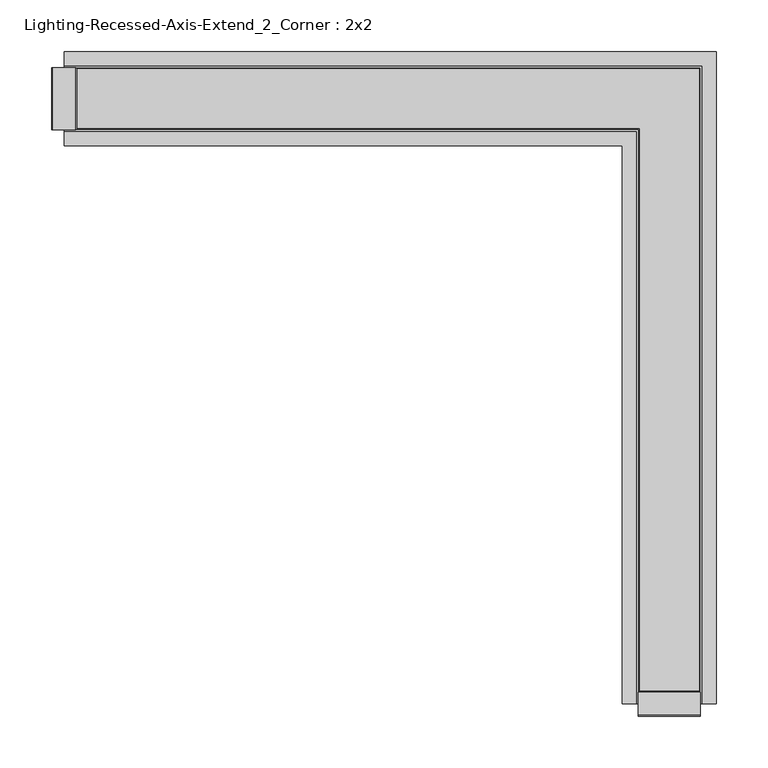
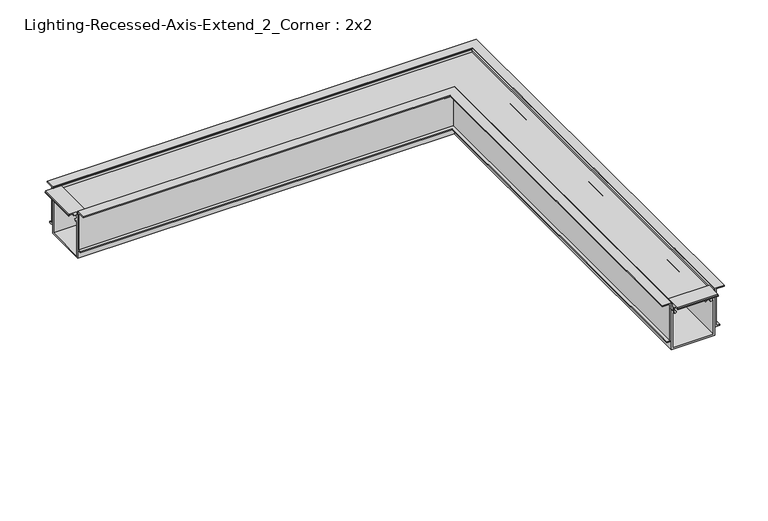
"""IFC4 building model written with IfcOpenShell, lengths in millimetres: light fixture geometry, Lighting-Recessed-Axis-Extend_2_Corner : 2x2."""

from ifc_helpers import new_model, si_unit, frame, origin, place, context, project, spatial, polyline, circle_curve, ellipse_curve, outline, extrude, faceted_brep, source, transform, mapped, element, save
from ifc_brep_helpers import plane_surface, cylinder_surface, revolved_surface, advanced_brep


def lighting_recessed_axis_extend_2_corner_2x2_75cb55ce(model_context):
    return source(origin(), model_context, "Body", "SolidModel", [
        extrude(outline(polyline([(-598.8558, -1.1017139), (-597.9312563, 0.0), (-575.5741437, 0.0), (-574.6496, -1.1017139), (-574.6496, -2.57175), (-575.44335, -2.57175), (-575.44335, -1.778), (-581.914, -1.778), (-581.914, -4.5842019), (-591.5914, -4.5842019), (-591.5914, -1.778), (-598.06205, -1.778), (-598.06205, -2.57175), (-598.8558, -2.57175), (-598.8558, -1.1017139)])), frame((242.824, 0.0, 0.0), z_axis=(1.0, 0.0, 0.0), x_axis=(0.0, 1.0, 0.0)), (0.0, 0.0, 1.0), 59.944),
        extrude(outline(polyline([(-1.1017139, -301.8536), (0.0, -302.7781437), (0.0, -325.1352563), (-1.1017139, -326.0598), (-2.57175, -326.0598), (-2.57175, -325.26605), (-1.778, -325.26605), (-1.778, -318.7954), (-4.5842019, -318.7954), (-4.5842019, -309.118), (-1.778, -309.118), (-1.778, -302.64735), (-2.57175, -302.64735), (-2.57175, -301.8536), (-1.1017139, -301.8536)])), frame((0.0, -29.972, 0.0), z_axis=(0.0, 1.0, 0.0), x_axis=(0.0, 0.0, 1.0)), (0.0, 0.0, 1.0), 59.944),
        advanced_brep(
        [(-304.8, -24.1727262, -4.8895009), (-304.8, -24.5114181, -11.3521263), (-304.8, -25.3818814, -17.9580097), (-304.8, -24.5665956, -19.4557425), (-304.8, -23.2119066, -20.6551445), (-304.8, -24.192808, -21.9831631), (-304.8, -25.7659952, -20.5903092), (-304.8, -27.1108807, -16.75974), (-304.8, -25.4753941, -12.7205342), (-304.8, -26.1394859, -10.8713211), (-304.8, -25.825992, -4.8895009), (-304.8, -28.829, -4.8895009), (-304.8, -28.829, -2.9845), (-304.8, 28.829, -2.9845), (-304.8, 28.829, -4.8895009), (-304.8, 25.825992, -4.8895009), (-304.8, 26.1394859, -10.8713211), (-304.8, 25.4753941, -12.7205342), (-304.8, 27.1108807, -16.75974), (-304.8, 25.7659952, -20.5903092), (-304.8, 24.192808, -21.9831631), (-304.8, 23.2119066, -20.6551445), (-304.8, 24.5665956, -19.4557425), (-304.8, 25.3818814, -17.9580097), (-304.8, 24.5114181, -11.3521263), (-304.8, 24.1727262, -4.8895009), (248.6232738, -577.596, -4.8895009), (296.9687262, -577.596, -4.8895009), (297.3074181, -577.596, -11.3521263), (298.1778814, -577.596, -17.9580097), (297.3625956, -577.596, -19.4557425), (296.0079066, -577.596, -20.6551445), (296.988808, -577.596, -21.9831631), (298.5619952, -577.596, -20.5903092), (299.9068807, -577.596, -16.75974), (298.2713941, -577.596, -12.7205342), (298.9354859, -577.596, -10.8713211), (298.621992, -577.596, -4.8895009), (301.625, -577.596, -4.8895009), (301.625, -577.596, -2.9845), (243.967, -577.596, -2.9845), (243.967, -577.596, -4.8895009), (246.970008, -577.596, -4.8895009), (246.6565141, -577.596, -10.8713211), (247.3206059, -577.596, -12.7205342), (245.6851193, -577.596, -16.75974), (247.0300048, -577.596, -20.5903092), (248.603192, -577.596, -21.9831631), (249.5840934, -577.596, -20.6551445), (248.2294044, -577.596, -19.4557425), (247.4141186, -577.596, -17.9580097), (248.2845819, -577.596, -11.3521263), (248.6232738, -24.1727262, -4.8895009), (248.2845819, -24.5114181, -11.3521263), (247.4141186, -25.3818814, -17.9580097), (248.2294044, -24.5665956, -19.4557425), (249.5840934, -23.2119066, -20.6551445), (248.603192, -24.192808, -21.9831631), (247.0300048, -25.7659952, -20.5903092), (245.6851193, -27.1108807, -16.75974), (247.3206059, -25.4753941, -12.7205342), (246.6565141, -26.1394859, -10.8713211), (246.970008, -25.825992, -4.8895009), (243.967, -28.829, -4.8895009), (243.967, -28.829, -2.9845), (301.625, 28.829, -2.9845), (301.625, 28.829, -4.8895009), (298.621992, 25.825992, -4.8895009), (298.9354859, 26.1394859, -10.8713211), (298.2713941, 25.4753941, -12.7205342), (299.9068807, 27.1108807, -16.75974), (298.5619952, 25.7659952, -20.5903092), (296.988808, 24.192808, -21.9831631), (296.0079066, 23.2119066, -20.6551445), (297.3625956, 24.5665956, -19.4557425), (298.1778814, 25.3818814, -17.9580097), (297.3074181, 24.5114181, -11.3521263), (296.9687262, 24.1727262, -4.8895009)],
        [
            (0, 1),
            (1, 2, circle_curve(frame((-304.8, -27.2542, -14.351), z_axis=(-1.0, 0.0, 0.0), x_axis=(0.0, 0.6748971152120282, 0.7379118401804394)), 4.064)),
            (2, 3, circle_curve(frame((-304.8, -22.149344, -17.1691543), z_axis=(1.0, 0.0, 0.0), x_axis=(0.0, -0.971490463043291, -0.23707863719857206)), 3.3274001)),
            (3, 4, circle_curve(frame((-304.8, -17.1303177, -12.4214292), z_axis=(1.0, 0.0, 0.0), x_axis=(0.0, -0.7264901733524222, -0.6871768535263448)), 10.2362001)),
            (4, 5, circle_curve(frame((-304.8, -23.7023573, -21.3191538), z_axis=(-1.0, 0.0, 0.0), x_axis=(0.0, 0.5941256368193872, 0.8043722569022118)), 0.8255)),
            (5, 6, circle_curve(frame((-304.8, -17.1303169, -12.4214283), z_axis=(-1.0, 0.0, 0.0), x_axis=(0.0, -0.5941256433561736, -0.8043722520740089)), 11.8872013)),
            (6, 7, circle_curve(frame((-304.8, -22.149344, -17.1691543), z_axis=(-1.0, 0.0, 0.0), x_axis=(0.0, -0.726468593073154, -0.6871996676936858)), 4.9784001)),
            (7, 8, circle_curve(frame((-304.8, -27.2542, -14.351), z_axis=(1.0, 0.0, 0.0), x_axis=(0.0, 0.05939464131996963, -0.9982345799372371)), 2.413)),
            (8, 9, circle_curve(frame((-304.8, -23.6029669, -11.0042544), z_axis=(-1.0, 0.0, 0.0), x_axis=(0.0, -0.7371760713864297, -0.675700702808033)), 2.54)),
            (9, 10),
            (10, 11),
            (11, 12),
            (12, 13),
            (13, 14),
            (14, 15),
            (15, 16),
            (16, 17, circle_curve(frame((-304.8, 23.6029669, -11.0042544), z_axis=(-1.0, 0.0, 0.0), x_axis=(0.0, 0.9986295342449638, 0.05233596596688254)), 2.54)),
            (17, 18, circle_curve(frame((-304.8, 27.2542, -14.351), z_axis=(1.0, 0.0, 0.0), x_axis=(0.0, -0.7371760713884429, 0.6757007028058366)), 2.413)),
            (18, 19, circle_curve(frame((-304.8, 22.149344, -17.1691543), z_axis=(-1.0, 0.0, 0.0), x_axis=(0.0, 0.996612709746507, 0.08223811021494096)), 4.9784001)),
            (19, 20, circle_curve(frame((-304.8, 17.1303169, -12.4214283), z_axis=(-1.0, 0.0, 0.0), x_axis=(0.0, 0.72646858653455, -0.6871996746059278)), 11.8872013)),
            (20, 21, circle_curve(frame((-304.8, 23.7023573, -21.3191538), z_axis=(-1.0, 0.0, 0.0), x_axis=(0.0, 0.594125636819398, -0.8043722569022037)), 0.8255)),
            (21, 22, circle_curve(frame((-304.8, 17.1303177, -12.4214292), z_axis=(1.0, 0.0, 0.0), x_axis=(0.0, 0.5941256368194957, -0.8043722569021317)), 10.2362001)),
            (22, 23, circle_curve(frame((-304.8, 22.149344, -17.1691543), z_axis=(1.0, 0.0, 0.0), x_axis=(0.0, 0.7265349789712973, -0.6871294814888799)), 3.3274001)),
            (23, 24, circle_curve(frame((-304.8, 27.2542, -14.351), z_axis=(-1.0, 0.0, 0.0), x_axis=(0.0, -0.46070831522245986, -0.8875516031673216)), 4.064)),
            (24, 25),
            (25, 0),
            (26, 27),
            (27, 28),
            (28, 29, circle_curve(frame((300.0502, -577.596, -14.351), z_axis=(0.0, -1.0, 0.0), x_axis=(-0.46070831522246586, 0.0, -0.8875516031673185)), 4.064)),
            (29, 30, circle_curve(frame((294.945344, -577.596, -17.1691543), z_axis=(0.0, 1.0, 0.0), x_axis=(0.7265349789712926, 0.0, -0.6871294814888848)), 3.3274001)),
            (30, 31, circle_curve(frame((289.9263177, -577.596, -12.4214292), z_axis=(0.0, 1.0, 0.0), x_axis=(0.5941256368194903, 0.0, -0.8043722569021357)), 10.2362001)),
            (31, 32, circle_curve(frame((296.4983573, -577.596, -21.3191538), z_axis=(0.0, -1.0, 0.0), x_axis=(0.5941256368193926, 0.0, -0.8043722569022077)), 0.8255)),
            (32, 33, circle_curve(frame((289.9263169, -577.596, -12.4214283), z_axis=(0.0, -1.0, 0.0), x_axis=(0.7264685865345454, 0.0, -0.6871996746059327)), 11.8872013)),
            (33, 34, circle_curve(frame((294.945344, -577.596, -17.1691543), z_axis=(0.0, -1.0, 0.0), x_axis=(0.9966127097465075, 0.0, 0.0822381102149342)), 4.9784001)),
            (34, 35, circle_curve(frame((300.0502, -577.596, -14.351), z_axis=(0.0, 1.0, 0.0), x_axis=(-0.7371760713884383, 0.0, 0.6757007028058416)), 2.413)),
            (35, 36, circle_curve(frame((296.3989669, -577.596, -11.0042544), z_axis=(0.0, -1.0, 0.0), x_axis=(0.9986295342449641, 0.0, 0.052335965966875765)), 2.54)),
            (36, 37),
            (37, 38),
            (38, 39),
            (39, 40),
            (40, 41),
            (41, 42),
            (42, 43),
            (43, 44, circle_curve(frame((249.1930331, -577.596, -11.0042544), z_axis=(0.0, -1.0, 0.0), x_axis=(-0.7371760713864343, 0.0, -0.675700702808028)), 2.54)),
            (44, 45, circle_curve(frame((245.5418, -577.596, -14.351), z_axis=(0.0, 1.0, 0.0), x_axis=(0.05939464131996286, 0.0, -0.9982345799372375)), 2.413)),
            (45, 46, circle_curve(frame((250.646656, -577.596, -17.1691543), z_axis=(0.0, -1.0, 0.0), x_axis=(-0.7264685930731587, 0.0, -0.6871996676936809)), 4.9784001)),
            (46, 47, circle_curve(frame((255.6656831, -577.596, -12.4214283), z_axis=(0.0, -1.0, 0.0), x_axis=(-0.594125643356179, 0.0, -0.8043722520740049)), 11.8872013)),
            (47, 48, circle_curve(frame((249.0936427, -577.596, -21.3191538), z_axis=(0.0, -1.0, 0.0), x_axis=(0.5941256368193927, 0.0, 0.8043722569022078)), 0.8255)),
            (48, 49, circle_curve(frame((255.6656823, -577.596, -12.4214292), z_axis=(0.0, 1.0, 0.0), x_axis=(-0.7264901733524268, 0.0, -0.68717685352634)), 10.2362001)),
            (49, 50, circle_curve(frame((250.646656, -577.596, -17.1691543), z_axis=(0.0, 1.0, 0.0), x_axis=(-0.9714904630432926, 0.0, -0.23707863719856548)), 3.3274001)),
            (50, 51, circle_curve(frame((245.5418, -577.596, -14.351), z_axis=(0.0, -1.0, 0.0), x_axis=(0.6748971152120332, 0.0, 0.7379118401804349)), 4.064)),
            (51, 26),
            (0, 52),
            (52, 53),
            (53, 1),
            (53, 54, ellipse_curve(frame((245.5418, -27.2542, -14.351), z_axis=(-0.7071067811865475, 0.7071067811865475, 0.0), x_axis=(-0.7071067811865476, -0.7071067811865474, 0.0)), 5.7473639, 4.064)),
            (54, 2),
            (54, 55, ellipse_curve(frame((250.646656, -22.149344, -17.1691543), z_axis=(0.7071067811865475, -0.7071067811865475, 0.0), x_axis=(0.7071067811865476, 0.7071067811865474, 0.0)), 4.7056543, 3.3274001)),
            (55, 3),
            (55, 56, ellipse_curve(frame((255.6656823, -17.1303177, -12.4214292), z_axis=(0.7071067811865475, -0.7071067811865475, 0.0), x_axis=(0.7071067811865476, 0.7071067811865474, 0.0)), 14.476173, 10.2362001)),
            (56, 4),
            (56, 57, ellipse_curve(frame((249.0936427, -23.7023573, -21.3191538), z_axis=(-0.7071067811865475, 0.7071067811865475, 0.0), x_axis=(-0.7071067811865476, -0.7071067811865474, 0.0)), 1.1674333, 0.8255)),
            (57, 5),
            (57, 58, ellipse_curve(frame((255.6656831, -17.1303169, -12.4214283), z_axis=(-0.7071067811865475, 0.7071067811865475, 0.0), x_axis=(-0.7071067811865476, -0.7071067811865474, 0.0)), 16.8110412, 11.8872013)),
            (58, 6),
            (58, 59, ellipse_curve(frame((250.646656, -22.149344, -17.1691543), z_axis=(-0.7071067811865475, 0.7071067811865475, 0.0), x_axis=(-0.7071067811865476, -0.7071067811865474, 0.0)), 7.0405209, 4.9784001)),
            (59, 7),
            (59, 60, ellipse_curve(frame((245.5418, -27.2542, -14.351), z_axis=(0.7071067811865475, -0.7071067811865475, 0.0), x_axis=(0.7071067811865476, 0.7071067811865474, 0.0)), 3.4124973, 2.413)),
            (60, 8),
            (60, 61, ellipse_curve(frame((249.1930331, -23.6029669, -11.0042544), z_axis=(-0.7071067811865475, 0.7071067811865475, 0.0), x_axis=(-0.7071067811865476, -0.7071067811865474, 0.0)), 3.5921024, 2.54)),
            (61, 9),
            (61, 62),
            (62, 10),
            (62, 42),
            (41, 63),
            (63, 11),
            (63, 64),
            (64, 12),
            (64, 40),
            (39, 65),
            (65, 13),
            (65, 66),
            (66, 14),
            (66, 38),
            (37, 67),
            (67, 15),
            (67, 68),
            (68, 16),
            (68, 69, ellipse_curve(frame((296.3989669, 23.6029669, -11.0042544), z_axis=(-0.7071067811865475, 0.7071067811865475, 0.0), x_axis=(-0.7071067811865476, -0.7071067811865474, 0.0)), 3.5921024, 2.54)),
            (69, 17),
            (69, 70, ellipse_curve(frame((300.0502, 27.2542, -14.351), z_axis=(0.7071067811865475, -0.7071067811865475, 0.0), x_axis=(0.7071067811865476, 0.7071067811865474, 0.0)), 3.4124973, 2.413)),
            (70, 18),
            (70, 71, ellipse_curve(frame((294.945344, 22.149344, -17.1691543), z_axis=(-0.7071067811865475, 0.7071067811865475, 0.0), x_axis=(-0.7071067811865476, -0.7071067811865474, 0.0)), 7.0405209, 4.9784001)),
            (71, 19),
            (71, 72, ellipse_curve(frame((289.9263169, 17.1303169, -12.4214283), z_axis=(-0.7071067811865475, 0.7071067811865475, 0.0), x_axis=(-0.7071067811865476, -0.7071067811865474, 0.0)), 16.8110412, 11.8872013)),
            (72, 20),
            (72, 73, ellipse_curve(frame((296.4983573, 23.7023573, -21.3191538), z_axis=(-0.7071067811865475, 0.7071067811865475, 0.0), x_axis=(-0.7071067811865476, -0.7071067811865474, 0.0)), 1.1674333, 0.8255)),
            (73, 21),
            (73, 74, ellipse_curve(frame((289.9263177, 17.1303177, -12.4214292), z_axis=(0.7071067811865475, -0.7071067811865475, 0.0), x_axis=(0.7071067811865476, 0.7071067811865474, 0.0)), 14.476173, 10.2362001)),
            (74, 22),
            (74, 75, ellipse_curve(frame((294.945344, 22.149344, -17.1691543), z_axis=(0.7071067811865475, -0.7071067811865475, 0.0), x_axis=(0.7071067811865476, 0.7071067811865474, 0.0)), 4.7056543, 3.3274001)),
            (75, 23),
            (75, 76, ellipse_curve(frame((300.0502, 27.2542, -14.351), z_axis=(-0.7071067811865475, 0.7071067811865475, 0.0), x_axis=(-0.7071067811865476, -0.7071067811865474, 0.0)), 5.7473639, 4.064)),
            (76, 24),
            (76, 77),
            (77, 25),
            (77, 27),
            (26, 52),
            (51, 53),
            (50, 54),
            (49, 55),
            (48, 56),
            (47, 57),
            (46, 58),
            (45, 59),
            (44, 60),
            (43, 61),
            (36, 68),
            (35, 69),
            (34, 70),
            (33, 71),
            (32, 72),
            (31, 73),
            (30, 74),
            (29, 75),
            (28, 76),
        ],
        [
            plane_surface(frame((-304.8, 0.0, -71.4375), z_axis=(-1.0, 0.0, 0.0), x_axis=(0.0, 0.0, 1.0))),
            plane_surface(frame((272.796, -577.596, -71.4375), z_axis=(0.0, -1.0, 0.0), x_axis=(0.0, 0.0, 1.0))),
            plane_surface(frame((-304.8, -24.1727262, -4.8895009), z_axis=(0.0, 0.9986295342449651, -0.05233596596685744), x_axis=(1.0, 0.0, 0.0))),
            cylinder_surface(frame((-304.8, -27.2542, -14.351), z_axis=(-1.0, 0.0, 0.0), x_axis=(0.0, 0.6748971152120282, 0.7379118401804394)), 4.064),
            revolved_surface(polyline([(253.97405606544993, -25.381881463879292, -17.958009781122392), (-304.8, -25.381881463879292, -17.958009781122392)]), (-304.8, -22.149344, -17.1691543), (1.0000000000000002, 0.0, 0.0)),
            revolved_surface(polyline([(265.9018823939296, -24.56681648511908, -19.455508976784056), (-304.8, -24.56681648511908, -19.455508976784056)]), (-304.8, -17.1303177, -12.4214292), (1.0, 0.0, 0.0)),
            cylinder_surface(frame((-304.8, -23.7023573, -21.3191538), z_axis=(-1.0000000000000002, 0.0, 0.0), x_axis=(0.0, 0.5941256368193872, 0.8043722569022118)), 0.8255),
            cylinder_surface(frame((-304.8, -17.1303169, -12.4214283), z_axis=(-1.0, 0.0, 0.0), x_axis=(0.0, -0.5941256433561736, -0.8043722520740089)), 11.8872013),
            cylinder_surface(frame((-304.8, -22.149344, -17.1691543), z_axis=(-1.0, 0.0, 0.0), x_axis=(0.0, -0.726468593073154, -0.6871996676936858)), 4.9784001),
            revolved_surface(polyline([(247.95479998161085, -27.110880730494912, -16.759740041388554), (-304.8, -27.110880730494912, -16.759740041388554)]), (-304.8, -27.2542, -14.351), (1.0, 0.0, 0.0)),
            cylinder_surface(frame((-304.8, -23.6029669, -11.0042544), z_axis=(-1.0000000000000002, 0.0, 0.0), x_axis=(0.0, -0.7371760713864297, -0.675700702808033)), 2.54),
            plane_surface(frame((-304.8, -26.1394859, -10.8713211), z_axis=(0.0, -0.9986295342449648, 0.05233596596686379), x_axis=(1.0, 0.0, 0.0))),
            plane_surface(frame((-304.8, -25.825992, -4.8895009), z_axis=(0.0, 0.0, -1.0), x_axis=(1.0, 0.0, 0.0))),
            plane_surface(frame((-304.8, -28.829, -4.8895009), z_axis=(0.0, -1.0, 0.0), x_axis=(1.0, 0.0, 0.0))),
            plane_surface(frame((-304.8, -28.829, -2.9845), z_axis=(0.0, 0.0, 1.0), x_axis=(1.0, 0.0, 0.0))),
            plane_surface(frame((-304.8, 28.829, -2.9845), z_axis=(0.0, 1.0, 0.0), x_axis=(1.0, 0.0, 0.0))),
            plane_surface(frame((-304.8, 28.829, -4.8895009), z_axis=(0.0, 0.0, -1.0), x_axis=(1.0, 0.0, 0.0))),
            plane_surface(frame((-304.8, 25.825992, -4.8895009), z_axis=(0.0, 0.9986295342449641, 0.05233596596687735), x_axis=(1.0, 0.0, 0.0))),
            cylinder_surface(frame((-304.8, 23.6029669, -11.0042544), z_axis=(-1.0, 0.0, 0.0), x_axis=(0.0, 0.9986295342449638, 0.05233596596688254)), 2.54),
            revolved_surface(polyline([(302.4631999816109, 25.475394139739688, -12.720534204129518), (-304.8, 25.475394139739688, -12.720534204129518)]), (-304.8, 27.2542, -14.351), (1.0, 0.0, 0.0)),
            cylinder_surface(frame((-304.8, 22.149344, -17.1691543), z_axis=(-1.0000000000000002, 0.0, 0.0), x_axis=(0.0, 0.996612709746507, 0.08223811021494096)), 4.9784001),
            cylinder_surface(frame((-304.8, 17.1303169, -12.4214283), z_axis=(-1.0, 0.0, 0.0), x_axis=(0.0, 0.72646858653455, -0.6871996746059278)), 11.8872013),
            cylinder_surface(frame((-304.8, 23.7023573, -21.3191538), z_axis=(-1.0, 0.0, 0.0), x_axis=(0.0, 0.594125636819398, -0.8043722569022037)), 0.8255),
            revolved_surface(polyline([(300.1625177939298, 23.211906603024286, -20.655144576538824), (-304.8, 23.211906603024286, -20.655144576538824)]), (-304.8, 17.1303177, -12.4214292), (1.0000000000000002, 0.0, 0.0)),
            revolved_surface(polyline([(298.2727440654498, 24.566816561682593, -19.455509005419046), (-304.8, 24.566816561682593, -19.455509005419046)]), (-304.8, 22.149344, -17.1691543), (1.0000000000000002, 0.0, 0.0)),
            cylinder_surface(frame((-304.8, 27.2542, -14.351), z_axis=(-1.0000000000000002, 0.0, 0.0), x_axis=(0.0, -0.46070831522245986, -0.8875516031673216)), 4.064),
            plane_surface(frame((-304.8, 24.5114181, -11.3521263), z_axis=(0.0, -0.9986295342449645, -0.052335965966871), x_axis=(1.0, 0.0, 0.0))),
            plane_surface(frame((-304.8, 24.1727262, -4.8895009), z_axis=(0.0, 0.0, -1.0), x_axis=(1.0, 0.0, 0.0))),
            plane_surface(frame((248.6232738, -24.1727262, -4.8895009), z_axis=(0.9986295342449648, 0.0, -0.05233596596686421), x_axis=(0.0, -1.0, 0.0))),
            cylinder_surface(frame((245.5418, 0.0, -14.351), z_axis=(0.0, 1.0, 0.0), x_axis=(0.6748971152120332, 0.0, 0.7379118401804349)), 4.064),
            revolved_surface(polyline([(247.4141185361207, -577.596, -17.95800978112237), (247.4141185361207, -18.821943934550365, -17.95800978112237)]), (250.646656, 0.0, -17.1691543), (0.0, -1.0, 0.0)),
            revolved_surface(polyline([(248.22918351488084, -577.596, -19.455508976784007), (248.22918351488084, -6.894117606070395, -19.455508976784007)]), (255.6656823, 0.0, -12.4214292), (0.0, -1.0, 0.0)),
            cylinder_surface(frame((249.0936427, 0.0, -21.3191538), z_axis=(0.0, 1.0000000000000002, 0.0), x_axis=(0.5941256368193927, 0.0, 0.8043722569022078)), 0.8255),
            cylinder_surface(frame((255.6656831, 0.0, -12.4214283), z_axis=(0.0, 1.0, 0.0), x_axis=(-0.594125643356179, 0.0, -0.8043722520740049)), 11.8872013),
            cylinder_surface(frame((250.646656, 0.0, -17.1691543), z_axis=(0.0, 1.0, 0.0), x_axis=(-0.7264685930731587, 0.0, -0.6871996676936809)), 4.9784001),
            revolved_surface(polyline([(245.68511926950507, -577.596, -16.759740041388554), (245.68511926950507, -24.841200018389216, -16.759740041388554)]), (245.5418, 0.0, -14.351), (0.0, -1.0, 0.0)),
            cylinder_surface(frame((249.1930331, 0.0, -11.0042544), z_axis=(0.0, 1.0, 0.0), x_axis=(-0.7371760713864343, 0.0, -0.675700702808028)), 2.54),
            plane_surface(frame((246.6565141, -26.1394859, -10.8713211), z_axis=(-0.9986295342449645, 0.0, 0.05233596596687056), x_axis=(0.0, -1.0, 0.0))),
            plane_surface(frame((243.967, -28.829, -4.8895009), z_axis=(-1.0, 0.0, 0.0), x_axis=(0.0, -1.0, 0.0))),
            plane_surface(frame((301.625, 28.829, -2.9845), z_axis=(1.0, 0.0, 0.0), x_axis=(0.0, -1.0, 0.0))),
            plane_surface(frame((298.621992, 25.825992, -4.8895009), z_axis=(0.9986295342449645, 0.0, 0.052335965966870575), x_axis=(0.0, -1.0, 0.0))),
            cylinder_surface(frame((296.3989669, 0.0, -11.0042544), z_axis=(0.0, 1.0, 0.0), x_axis=(0.9986295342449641, 0.0, 0.052335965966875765)), 2.54),
            revolved_surface(polyline([(298.2713941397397, -577.5960000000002, -12.720534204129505), (298.2713941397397, 29.6671999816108, -12.720534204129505)]), (300.0502, 0.0, -14.351), (0.0, -1.0000000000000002, 0.0)),
            cylinder_surface(frame((294.945344, 0.0, -17.1691543), z_axis=(0.0, 1.0000000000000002, 0.0), x_axis=(0.9966127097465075, 0.0, 0.0822381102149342)), 4.9784001),
            cylinder_surface(frame((289.9263169, 0.0, -12.4214283), z_axis=(0.0, 1.0, 0.0), x_axis=(0.7264685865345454, 0.0, -0.6871996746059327)), 11.8872013),
            cylinder_surface(frame((296.4983573, 0.0, -21.3191538), z_axis=(0.0, 1.0, 0.0), x_axis=(0.5941256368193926, 0.0, -0.8043722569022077)), 0.8255),
            revolved_surface(polyline([(296.00790660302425, -577.596, -20.655144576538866), (296.00790660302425, 27.366517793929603, -20.655144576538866)]), (289.9263177, 0.0, -12.4214292), (0.0, -1.0, 0.0)),
            revolved_surface(polyline([(297.36281656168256, -577.5960000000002, -19.455509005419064), (297.36281656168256, 25.476744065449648, -19.455509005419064)]), (294.945344, 0.0, -17.1691543), (0.0, -1.0000000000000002, 0.0)),
            cylinder_surface(frame((300.0502, 0.0, -14.351), z_axis=(0.0, 1.0000000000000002, 0.0), x_axis=(-0.46070831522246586, 0.0, -0.8875516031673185)), 4.064),
            plane_surface(frame((297.3074181, 24.5114181, -11.3521263), z_axis=(-0.9986295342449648, 0.0, -0.052335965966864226), x_axis=(0.0, -1.0, 0.0))),
        ],
        [
            (0, [[1, 2, 3, 4, 5, 6, 7, 8, 9, 10, 11, 12, 13, 14, 15, 16, 17, 18, 19, 20, 21, 22, 23, 24, 25, 26]]),
            (1, [[27, 28, 29, 30, 31, 32, 33, 34, 35, 36, 37, 38, 39, 40, 41, 42, 43, 44, 45, 46, 47, 48, 49, 50, 51, 52]]),
            (2, [[-1, 53, 54, 55]]),
            (3, [[-2, -55, 56, 57]]),
            (4, [[-3, -57, 58, 59]]),
            (5, [[-4, -59, 60, 61]]),
            (6, [[-5, -61, 62, 63]]),
            (7, [[-6, -63, 64, 65]]),
            (8, [[-7, -65, 66, 67]]),
            (9, [[-8, -67, 68, 69]]),
            (10, [[-9, -69, 70, 71]]),
            (11, [[-10, -71, 72, 73]]),
            (12, [[-11, -73, 74, -42, 75, 76]]),
            (13, [[-12, -76, 77, 78]]),
            (14, [[-13, -78, 79, -40, 80, 81]]),
            (15, [[-14, -81, 82, 83]]),
            (16, [[-15, -83, 84, -38, 85, 86]]),
            (17, [[-16, -86, 87, 88]]),
            (18, [[-17, -88, 89, 90]]),
            (19, [[-18, -90, 91, 92]]),
            (20, [[-19, -92, 93, 94]]),
            (21, [[-20, -94, 95, 96]]),
            (22, [[-21, -96, 97, 98]]),
            (23, [[-22, -98, 99, 100]]),
            (24, [[-23, -100, 101, 102]]),
            (25, [[-24, -102, 103, 104]]),
            (26, [[-25, -104, 105, 106]]),
            (27, [[-26, -106, 107, -27, 108, -53]]),
            (28, [[-54, -108, -52, 109]]),
            (29, [[-56, -109, -51, 110]]),
            (30, [[-58, -110, -50, 111]]),
            (31, [[-60, -111, -49, 112]]),
            (32, [[-62, -112, -48, 113]]),
            (33, [[-64, -113, -47, 114]]),
            (34, [[-66, -114, -46, 115]]),
            (35, [[-68, -115, -45, 116]]),
            (36, [[-70, -116, -44, 117]]),
            (37, [[-72, -117, -43, -74]]),
            (38, [[-77, -75, -41, -79]]),
            (39, [[-82, -80, -39, -84]]),
            (40, [[-87, -85, -37, 118]]),
            (41, [[-89, -118, -36, 119]]),
            (42, [[-91, -119, -35, 120]]),
            (43, [[-93, -120, -34, 121]]),
            (44, [[-95, -121, -33, 122]]),
            (45, [[-97, -122, -32, 123]]),
            (46, [[-99, -123, -31, 124]]),
            (47, [[-101, -124, -30, 125]]),
            (48, [[-103, -125, -29, 126]]),
            (49, [[-105, -126, -28, -107]]),
        ],
    ),
        advanced_brep(
        [(-313.9567, -29.972, -14.9098), (-313.9567, -29.972, -69.4055), (-313.9567, 29.972, -69.4055), (-313.9567, 29.972, -14.9098), (-313.9567, 28.1325797, -14.9098), (-313.9567, 25.8730546, -16.2143374), (-313.9567, 24.6896516, -13.9591318), (-313.9567, 28.067, -11.1252), (-313.9567, 28.067, -12.8778), (-313.9567, 29.972, -12.8778), (-313.9567, 29.972, -6.35), (-313.9567, 28.067, -6.35), (-313.9567, 28.067, -7.874), (-313.9567, 26.416, -7.7874748), (-313.9567, 26.416, -5.08), (-313.9567, 29.972, -5.08), (-313.9567, 29.972, 0.0), (-313.9567, 32.004, 0.0), (-313.9567, 32.004, -71.4375), (-313.9567, -32.004, -71.4375), (-313.9567, -32.004, 0.0), (-313.9567, -29.972, 0.0), (-313.9567, -29.972, -5.08), (-313.9567, -26.416, -5.08), (-313.9567, -26.416, -7.7874748), (-313.9567, -28.067, -7.874), (-313.9567, -28.067, -6.35), (-313.9567, -29.972, -6.35), (-313.9567, -29.972, -12.8778), (-313.9567, -28.067, -12.8778), (-313.9567, -28.067, -11.1252), (-313.9567, -24.6896516, -13.9591318), (-313.9567, -25.8730546, -16.2143374), (-313.9567, -28.1325797, -14.9098), (242.824, -586.7527, -14.9098), (244.6634203, -586.7527, -14.9098), (246.9229454, -586.7527, -16.2143374), (248.1063484, -586.7527, -13.9591318), (244.729, -586.7527, -11.1252), (244.729, -586.7527, -12.8778), (242.824, -586.7527, -12.8778), (242.824, -586.7527, -6.35), (244.729, -586.7527, -6.35), (244.729, -586.7527, -7.874), (246.38, -586.7527, -7.7874748), (246.38, -586.7527, -5.08), (242.824, -586.7527, -5.08), (242.824, -586.7527, 0.0), (240.792, -586.7527, 0.0), (240.792, -586.7527, -71.4375), (304.8, -586.7527, -71.4375), (304.8, -586.7527, 0.0), (302.768, -586.7527, 0.0), (302.768, -586.7527, -5.08), (299.212, -586.7527, -5.08), (299.212, -586.7527, -7.7874748), (300.863, -586.7527, -7.874), (300.863, -586.7527, -6.35), (302.768, -586.7527, -6.35), (302.768, -586.7527, -12.8778), (300.863, -586.7527, -12.8778), (300.863, -586.7527, -11.1252), (297.4856516, -586.7527, -13.9591318), (298.6690546, -586.7527, -16.2143374), (300.9285797, -586.7527, -14.9098), (302.768, -586.7527, -14.9098), (302.768, -586.7527, -69.4055), (242.824, -586.7527, -69.4055), (242.824, -29.972, -14.9098), (242.824, -29.972, -69.4055), (302.768, 29.972, -69.4055), (302.768, 29.972, -14.9098), (300.9285797, 28.1325797, -14.9098), (298.6690546, 25.8730546, -16.2143374), (297.4856516, 24.6896516, -13.9591318), (300.863, 28.067, -11.1252), (300.863, 28.067, -12.8778), (302.768, 29.972, -12.8778), (302.768, 29.972, -6.35), (300.863, 28.067, -6.35), (300.863, 28.067, -7.874), (299.212, 26.416, -7.7874748), (299.212, 26.416, -5.08), (302.768, 29.972, -5.08), (302.768, 29.972, 0.0), (304.8, 32.004, 0.0), (304.8, 32.004, -71.4375), (240.792, -32.004, -71.4375), (240.792, -32.004, 0.0), (242.824, -29.972, 0.0), (242.824, -29.972, -5.08), (246.38, -26.416, -5.08), (246.38, -26.416, -7.7874748), (244.729, -28.067, -7.874), (244.729, -28.067, -6.35), (242.824, -29.972, -6.35), (242.824, -29.972, -12.8778), (244.729, -28.067, -12.8778), (244.729, -28.067, -11.1252), (248.1063484, -24.6896516, -13.9591318), (246.9229454, -25.8730546, -16.2143374), (244.6634203, -28.1325797, -14.9098)],
        [
            (0, 1),
            (1, 2),
            (2, 3),
            (3, 4),
            (4, 5, circle_curve(frame((-313.9567, 26.6262297, -14.9098), z_axis=(-1.0, 0.0, 0.0), x_axis=(0.0, -0.499999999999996, -0.866025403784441)), 1.5063501)),
            (5, 6, circle_curve(frame((-313.9567, 27.0642121, -14.1511921), z_axis=(-1.0, 0.0, 0.0), x_axis=(0.0, -0.9967449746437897, 0.08061920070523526)), 2.382315)),
            (6, 7),
            (7, 8),
            (8, 9),
            (9, 10),
            (10, 11),
            (11, 12),
            (12, 13),
            (13, 14),
            (14, 15),
            (15, 16),
            (16, 17),
            (17, 18),
            (18, 19),
            (19, 20),
            (20, 21),
            (21, 22),
            (22, 23),
            (23, 24),
            (24, 25),
            (25, 26),
            (26, 27),
            (27, 28),
            (28, 29),
            (29, 30),
            (30, 31),
            (31, 32, circle_curve(frame((-313.9567, -27.0642121, -14.1511921), z_axis=(-1.0, 0.0, 0.0), x_axis=(0.0, 0.5000000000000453, -0.8660254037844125)), 2.382315)),
            (32, 33, circle_curve(frame((-313.9567, -26.6262297, -14.9098), z_axis=(-1.0, 0.0, 0.0), x_axis=(0.0, -1.0, 0.0)), 1.5063501)),
            (33, 0),
            (34, 35),
            (35, 36, circle_curve(frame((246.1697703, -586.7527, -14.9098), z_axis=(0.0, -1.0, 0.0), x_axis=(-1.0, 0.0, 0.0)), 1.5063501)),
            (36, 37, circle_curve(frame((245.7317879, -586.7527, -14.1511921), z_axis=(0.0, -1.0, 0.0), x_axis=(0.5000000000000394, 0.0, -0.866025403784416)), 2.382315)),
            (37, 38),
            (38, 39),
            (39, 40),
            (40, 41),
            (41, 42),
            (42, 43),
            (43, 44),
            (44, 45),
            (45, 46),
            (46, 47),
            (47, 48),
            (48, 49),
            (49, 50),
            (50, 51),
            (51, 52),
            (52, 53),
            (53, 54),
            (54, 55),
            (55, 56),
            (56, 57),
            (57, 58),
            (58, 59),
            (59, 60),
            (60, 61),
            (61, 62),
            (62, 63, circle_curve(frame((299.8602121, -586.7527, -14.1511921), z_axis=(0.0, -1.0, 0.0), x_axis=(-0.9967449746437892, 0.0, 0.08061920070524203)), 2.382315)),
            (63, 64, circle_curve(frame((299.4222297, -586.7527, -14.9098), z_axis=(0.0, -1.0, 0.0), x_axis=(-0.5000000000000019, 0.0, -0.8660254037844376)), 1.5063501)),
            (64, 65),
            (65, 66),
            (66, 67),
            (67, 34),
            (0, 68),
            (68, 69),
            (69, 1),
            (69, 67),
            (66, 70),
            (70, 2),
            (70, 71),
            (71, 3),
            (71, 65),
            (64, 72),
            (72, 4),
            (72, 73, ellipse_curve(frame((299.4222297, 26.6262297, -14.9098), z_axis=(-0.7071067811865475, 0.7071067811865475, 0.0), x_axis=(-0.7071067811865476, -0.7071067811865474, 0.0)), 2.1303007, 1.5063501)),
            (73, 5),
            (73, 74, ellipse_curve(frame((299.8602121, 27.0642121, -14.1511921), z_axis=(-0.7071067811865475, 0.7071067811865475, 0.0), x_axis=(-0.7071067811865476, -0.7071067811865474, 0.0)), 3.3691022, 2.382315)),
            (74, 6),
            (74, 75),
            (75, 7),
            (75, 76),
            (76, 8),
            (76, 60),
            (59, 77),
            (77, 9),
            (77, 78),
            (78, 10),
            (78, 58),
            (57, 79),
            (79, 11),
            (79, 80),
            (80, 12),
            (80, 81),
            (81, 13),
            (81, 82),
            (82, 14),
            (82, 54),
            (53, 83),
            (83, 15),
            (83, 84),
            (84, 16),
            (84, 52),
            (51, 85),
            (85, 17),
            (85, 86),
            (86, 18),
            (86, 50),
            (49, 87),
            (87, 19),
            (87, 88),
            (88, 20),
            (88, 48),
            (47, 89),
            (89, 21),
            (89, 90),
            (90, 22),
            (90, 46),
            (45, 91),
            (91, 23),
            (91, 92),
            (92, 24),
            (92, 93),
            (93, 25),
            (93, 94),
            (94, 26),
            (94, 42),
            (41, 95),
            (95, 27),
            (95, 96),
            (96, 28),
            (96, 40),
            (39, 97),
            (97, 29),
            (97, 98),
            (98, 30),
            (98, 99),
            (99, 31),
            (99, 100, ellipse_curve(frame((245.7317879, -27.0642121, -14.1511921), z_axis=(-0.7071067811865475, 0.7071067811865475, 0.0), x_axis=(-0.7071067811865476, -0.7071067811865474, 0.0)), 3.3691022, 2.382315)),
            (100, 32),
            (100, 101, ellipse_curve(frame((246.1697703, -26.6262297, -14.9098), z_axis=(-0.7071067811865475, 0.7071067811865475, 0.0), x_axis=(-0.7071067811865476, -0.7071067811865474, 0.0)), 2.1303007, 1.5063501)),
            (101, 33),
            (101, 35),
            (34, 68),
            (63, 73),
            (62, 74),
            (61, 75),
            (56, 80),
            (55, 81),
            (44, 92),
            (43, 93),
            (38, 98),
            (37, 99),
            (36, 100),
        ],
        [
            plane_surface(frame((-313.9567, 0.0, -71.4375), z_axis=(-1.0, 0.0, 0.0), x_axis=(0.0, 0.0, 1.0))),
            plane_surface(frame((272.796, -586.7527, -71.4375), z_axis=(0.0, -1.0, 0.0), x_axis=(0.0, 0.0, 1.0))),
            plane_surface(frame((-313.9567, -29.972, -14.9098), z_axis=(0.0, 1.0, 0.0), x_axis=(1.0, 0.0, 0.0))),
            plane_surface(frame((-313.9567, -29.972, -69.4055), z_axis=(0.0, 0.0, 1.0), x_axis=(1.0, 0.0, 0.0))),
            plane_surface(frame((-313.9567, 29.972, -69.4055), z_axis=(0.0, -1.0, 0.0), x_axis=(1.0, 0.0, 0.0))),
            plane_surface(frame((-313.9567, 29.972, -14.9098), z_axis=(0.0, 0.0, -1.0), x_axis=(1.0, 0.0, 0.0))),
            cylinder_surface(frame((-313.9567, 26.6262297, -14.9098), z_axis=(-1.0, 0.0, 0.0), x_axis=(0.0, -0.499999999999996, -0.866025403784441)), 1.5063501),
            cylinder_surface(frame((-313.9567, 27.0642121, -14.1511921), z_axis=(-1.0, 0.0, 0.0), x_axis=(0.0, -0.9967449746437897, 0.08061920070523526)), 2.382315),
            plane_surface(frame((-313.9567, 24.6896516, -13.9591318), z_axis=(0.0, -0.6427876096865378, 0.7660444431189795), x_axis=(1.0, 0.0, 0.0))),
            plane_surface(frame((-313.9567, 28.067, -11.1252), z_axis=(0.0, 1.0, 0.0), x_axis=(1.0, 0.0, 0.0))),
            plane_surface(frame((-313.9567, 28.067, -12.8778), z_axis=(0.0, 0.0, 1.0), x_axis=(1.0, 0.0, 0.0))),
            plane_surface(frame((-313.9567, 29.972, -12.8778), z_axis=(0.0, -1.0, 0.0), x_axis=(1.0, 0.0, 0.0))),
            plane_surface(frame((-313.9567, 29.972, -6.35), z_axis=(0.0, 0.0, -1.0), x_axis=(1.0, 0.0, 0.0))),
            plane_surface(frame((-313.9567, 28.067, -6.35), z_axis=(0.0, 1.0, 0.0), x_axis=(1.0, 0.0, 0.0))),
            plane_surface(frame((-313.9567, 28.067, -7.874), z_axis=(0.0, -0.052335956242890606, -0.9986295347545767), x_axis=(1.0, 0.0, 0.0))),
            plane_surface(frame((-313.9567, 26.416, -7.7874748), z_axis=(0.0, -1.0, 0.0), x_axis=(1.0, 0.0, 0.0))),
            plane_surface(frame((-313.9567, 26.416, -5.08), z_axis=(0.0, 0.0, 1.0), x_axis=(1.0, 0.0, 0.0))),
            plane_surface(frame((-313.9567, 29.972, -5.08), z_axis=(0.0, -1.0, 0.0), x_axis=(1.0, 0.0, 0.0))),
            plane_surface(frame((-313.9567, 29.972, 0.0), z_axis=(0.0, 0.0, 1.0), x_axis=(1.0, 0.0, 0.0))),
            plane_surface(frame((-313.9567, 32.004, 0.0), z_axis=(0.0, 1.0, 0.0), x_axis=(1.0, 0.0, 0.0))),
            plane_surface(frame((-313.9567, 32.004, -71.4375), z_axis=(0.0, 0.0, -1.0), x_axis=(1.0, 0.0, 0.0))),
            plane_surface(frame((-313.9567, -32.004, -71.4375), z_axis=(0.0, -1.0, 0.0), x_axis=(1.0, 0.0, 0.0))),
            plane_surface(frame((-313.9567, -32.004, 0.0), z_axis=(0.0, 0.0, 1.0), x_axis=(1.0, 0.0, 0.0))),
            plane_surface(frame((-313.9567, -29.972, 0.0), z_axis=(0.0, 1.0, 0.0), x_axis=(1.0, 0.0, 0.0))),
            plane_surface(frame((-313.9567, -29.972, -5.08), z_axis=(0.0, 0.0, 1.0), x_axis=(1.0, 0.0, 0.0))),
            plane_surface(frame((-313.9567, -26.416, -5.08), z_axis=(0.0, 1.0, 0.0), x_axis=(1.0, 0.0, 0.0))),
            plane_surface(frame((-313.9567, -26.416, -7.7874748), z_axis=(0.0, 0.052335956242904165, -0.998629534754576), x_axis=(1.0, 0.0, 0.0))),
            plane_surface(frame((-313.9567, -28.067, -7.874), z_axis=(0.0, -1.0, 0.0), x_axis=(1.0, 0.0, 0.0))),
            plane_surface(frame((-313.9567, -28.067, -6.35), z_axis=(0.0, 0.0, -1.0), x_axis=(1.0, 0.0, 0.0))),
            plane_surface(frame((-313.9567, -29.972, -6.35), z_axis=(0.0, 1.0, 0.0), x_axis=(1.0, 0.0, 0.0))),
            plane_surface(frame((-313.9567, -29.972, -12.8778), z_axis=(0.0, 0.0, 1.0), x_axis=(1.0, 0.0, 0.0))),
            plane_surface(frame((-313.9567, -28.067, -12.8778), z_axis=(0.0, -1.0, 0.0), x_axis=(1.0, 0.0, 0.0))),
            plane_surface(frame((-313.9567, -28.067, -11.1252), z_axis=(0.0, 0.6427876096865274, 0.7660444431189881), x_axis=(1.0, 0.0, 0.0))),
            cylinder_surface(frame((-313.9567, -27.0642121, -14.1511921), z_axis=(-1.0, 0.0, 0.0), x_axis=(0.0, 0.5000000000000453, -0.8660254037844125)), 2.382315),
            cylinder_surface(frame((-313.9567, -26.6262297, -14.9098), z_axis=(-1.0, 0.0, 0.0), x_axis=(0.0, -1.0, 0.0)), 1.5063501),
            plane_surface(frame((-313.9567, -28.1325797, -14.9098), z_axis=(0.0, 0.0, -1.0), x_axis=(1.0, 0.0, 0.0))),
            plane_surface(frame((242.824, -29.972, -14.9098), z_axis=(1.0, 0.0, 0.0), x_axis=(0.0, -1.0, 0.0))),
            plane_surface(frame((302.768, 29.972, -69.4055), z_axis=(-1.0, 0.0, 0.0), x_axis=(0.0, -1.0, 0.0))),
            cylinder_surface(frame((299.4222297, 0.0, -14.9098), z_axis=(0.0, 1.0, 0.0), x_axis=(-0.5000000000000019, 0.0, -0.8660254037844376)), 1.5063501),
            cylinder_surface(frame((299.8602121, 0.0, -14.1511921), z_axis=(0.0, 1.0000000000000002, 0.0), x_axis=(-0.9967449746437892, 0.0, 0.08061920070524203)), 2.382315),
            plane_surface(frame((297.4856516, 24.6896516, -13.9591318), z_axis=(-0.6427876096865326, 0.0, 0.7660444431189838), x_axis=(0.0, -1.0, 0.0))),
            plane_surface(frame((300.863, 28.067, -11.1252), z_axis=(1.0, 0.0, 0.0), x_axis=(0.0, -1.0, 0.0))),
            plane_surface(frame((302.768, 29.972, -12.8778), z_axis=(-1.0, 0.0, 0.0), x_axis=(0.0, -1.0, 0.0))),
            plane_surface(frame((300.863, 28.067, -6.35), z_axis=(1.0, 0.0, 0.0), x_axis=(0.0, -1.0, 0.0))),
            plane_surface(frame((300.863, 28.067, -7.874), z_axis=(-0.052335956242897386, 0.0, -0.9986295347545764), x_axis=(0.0, -1.0, 0.0))),
            plane_surface(frame((299.212, 26.416, -7.7874748), z_axis=(-1.0, 0.0, 0.0), x_axis=(0.0, -1.0, 0.0))),
            plane_surface(frame((302.768, 29.972, -5.08), z_axis=(-1.0, 0.0, 0.0), x_axis=(0.0, -1.0, 0.0))),
            plane_surface(frame((304.8, 32.004, 0.0), z_axis=(1.0, 0.0, 0.0), x_axis=(0.0, -1.0, 0.0))),
            plane_surface(frame((240.792, -32.004, -71.4375), z_axis=(-1.0, 0.0, 0.0), x_axis=(0.0, -1.0, 0.0))),
            plane_surface(frame((242.824, -29.972, 0.0), z_axis=(1.0, 0.0, 0.0), x_axis=(0.0, -1.0, 0.0))),
            plane_surface(frame((246.38, -26.416, -5.08), z_axis=(1.0, 0.0, 0.0), x_axis=(0.0, -1.0, 0.0))),
            plane_surface(frame((246.38, -26.416, -7.7874748), z_axis=(0.052335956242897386, 0.0, -0.9986295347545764), x_axis=(0.0, -1.0, 0.0))),
            plane_surface(frame((244.729, -28.067, -7.874), z_axis=(-1.0, 0.0, 0.0), x_axis=(0.0, -1.0, 0.0))),
            plane_surface(frame((242.824, -29.972, -6.35), z_axis=(1.0, 0.0, 0.0), x_axis=(0.0, -1.0, 0.0))),
            plane_surface(frame((244.729, -28.067, -12.8778), z_axis=(-1.0, 0.0, 0.0), x_axis=(0.0, -1.0, 0.0))),
            plane_surface(frame((244.729, -28.067, -11.1252), z_axis=(0.6427876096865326, 0.0, 0.7660444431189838), x_axis=(0.0, -1.0, 0.0))),
            cylinder_surface(frame((245.7317879, 0.0, -14.1511921), z_axis=(0.0, 1.0, 0.0), x_axis=(0.5000000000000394, 0.0, -0.866025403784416)), 2.382315),
            cylinder_surface(frame((246.1697703, 0.0, -14.9098), z_axis=(0.0, 1.0, 0.0), x_axis=(-1.0, 0.0, 0.0)), 1.5063501),
        ],
        [
            (0, [[1, 2, 3, 4, 5, 6, 7, 8, 9, 10, 11, 12, 13, 14, 15, 16, 17, 18, 19, 20, 21, 22, 23, 24, 25, 26, 27, 28, 29, 30, 31, 32, 33, 34]]),
            (1, [[35, 36, 37, 38, 39, 40, 41, 42, 43, 44, 45, 46, 47, 48, 49, 50, 51, 52, 53, 54, 55, 56, 57, 58, 59, 60, 61, 62, 63, 64, 65, 66, 67, 68]]),
            (2, [[-1, 69, 70, 71]]),
            (3, [[-2, -71, 72, -67, 73, 74]]),
            (4, [[-3, -74, 75, 76]]),
            (5, [[-4, -76, 77, -65, 78, 79]]),
            (6, [[-5, -79, 80, 81]]),
            (7, [[-6, -81, 82, 83]]),
            (8, [[-7, -83, 84, 85]]),
            (9, [[-8, -85, 86, 87]]),
            (10, [[-9, -87, 88, -60, 89, 90]]),
            (11, [[-10, -90, 91, 92]]),
            (12, [[-11, -92, 93, -58, 94, 95]]),
            (13, [[-12, -95, 96, 97]]),
            (14, [[-13, -97, 98, 99]]),
            (15, [[-14, -99, 100, 101]]),
            (16, [[-15, -101, 102, -54, 103, 104]]),
            (17, [[-16, -104, 105, 106]]),
            (18, [[-17, -106, 107, -52, 108, 109]]),
            (19, [[-18, -109, 110, 111]]),
            (20, [[-19, -111, 112, -50, 113, 114]]),
            (21, [[-20, -114, 115, 116]]),
            (22, [[-21, -116, 117, -48, 118, 119]]),
            (23, [[-22, -119, 120, 121]]),
            (24, [[-23, -121, 122, -46, 123, 124]]),
            (25, [[-24, -124, 125, 126]]),
            (26, [[-25, -126, 127, 128]]),
            (27, [[-26, -128, 129, 130]]),
            (28, [[-27, -130, 131, -42, 132, 133]]),
            (29, [[-28, -133, 134, 135]]),
            (30, [[-29, -135, 136, -40, 137, 138]]),
            (31, [[-30, -138, 139, 140]]),
            (32, [[-31, -140, 141, 142]]),
            (33, [[-32, -142, 143, 144]]),
            (34, [[-33, -144, 145, 146]]),
            (35, [[-34, -146, 147, -35, 148, -69]]),
            (36, [[-70, -148, -68, -72]]),
            (37, [[-75, -73, -66, -77]]),
            (38, [[-80, -78, -64, 149]]),
            (39, [[-82, -149, -63, 150]]),
            (40, [[-84, -150, -62, 151]]),
            (41, [[-86, -151, -61, -88]]),
            (42, [[-91, -89, -59, -93]]),
            (43, [[-96, -94, -57, 152]]),
            (44, [[-98, -152, -56, 153]]),
            (45, [[-100, -153, -55, -102]]),
            (46, [[-105, -103, -53, -107]]),
            (47, [[-110, -108, -51, -112]]),
            (48, [[-115, -113, -49, -117]]),
            (49, [[-120, -118, -47, -122]]),
            (50, [[-125, -123, -45, 154]]),
            (51, [[-127, -154, -44, 155]]),
            (52, [[-129, -155, -43, -131]]),
            (53, [[-134, -132, -41, -136]]),
            (54, [[-139, -137, -39, 156]]),
            (55, [[-141, -156, -38, 157]]),
            (56, [[-143, -157, -37, 158]]),
            (57, [[-145, -158, -36, -147]]),
        ],
    ),
        faceted_brep([(-313.9567, 32.004, 1.651), (-313.9567, 45.593, 1.651), (-313.9567, 45.593, 0.0), (-313.9567, 34.29, 0.0), (-313.9567, 34.29, -57.023), (-313.9567, 38.954552, -57.023), (-313.9567, 38.954552, -58.674), (-313.9567, 32.004, -58.674), (304.8, 32.004, 1.651), (304.8, -586.7527, 1.651), (318.389, -586.7527, 1.651), (318.389, 45.593, 1.651), (318.389, 45.593, 0.0), (318.389, -586.7527, 0.0), (307.086, -586.7527, 0.0), (307.086, 34.29, 0.0), (307.086, 34.29, -57.023), (307.086, -586.7527, -57.023), (311.750552, -586.7527, -57.023), (311.750552, 38.954552, -57.023), (311.750552, 38.954552, -58.674), (311.750552, -586.7527, -58.674), (304.8, -586.7527, -58.674), (304.8, 32.004, -58.674)], [[[0, 1, 2, 3, 4, 5, 6, 7]], [[1, 0, 8, 9, 10, 11]], [[2, 1, 11, 12]], [[3, 2, 12, 13, 14, 15]], [[4, 3, 15, 16]], [[5, 4, 16, 17, 18, 19]], [[6, 5, 19, 20]], [[7, 6, 20, 21, 22, 23]], [[0, 7, 23, 8]], [[9, 22, 21, 18, 17, 14, 13, 10]], [[12, 11, 10, 13]], [[16, 15, 14, 17]], [[20, 19, 18, 21]], [[8, 23, 22, 9]]]),
        faceted_brep([(-313.9567, -32.004, 1.651), (-313.9567, -32.004, -58.674), (-313.9567, -38.954552, -58.674), (-313.9567, -38.954552, -57.023), (-313.9567, -34.29, -57.023), (-313.9567, -34.29, 0.0), (-313.9567, -45.593, 0.0), (-313.9567, -45.593, 1.651), (240.792, -32.004, 1.651), (240.792, -32.004, -58.674), (240.792, -586.7527, -58.674), (233.841448, -586.7527, -58.674), (233.841448, -38.954552, -58.674), (233.841448, -38.954552, -57.023), (233.841448, -586.7527, -57.023), (238.506, -586.7527, -57.023), (238.506, -34.29, -57.023), (238.506, -34.29, 0.0), (238.506, -586.7527, 0.0), (227.203, -586.7527, 0.0), (227.203, -45.593, 0.0), (227.203, -45.593, 1.651), (227.203, -586.7527, 1.651), (240.792, -586.7527, 1.651)], [[[0, 1, 2, 3, 4, 5, 6, 7]], [[1, 0, 8, 9]], [[2, 1, 9, 10, 11, 12]], [[3, 2, 12, 13]], [[4, 3, 13, 14, 15, 16]], [[5, 4, 16, 17]], [[6, 5, 17, 18, 19, 20]], [[7, 6, 20, 21]], [[0, 7, 21, 22, 23, 8]], [[23, 22, 19, 18, 15, 14, 11, 10]], [[9, 8, 23, 10]], [[13, 12, 11, 14]], [[17, 16, 15, 18]], [[21, 20, 19, 22]]]),
    ])


if __name__ == "__main__":
    model = new_model("IFC4")
    model_context = context("Model", 3, world=origin())
    ifc_project = project(units=[si_unit("LENGTHUNIT", "METRE", prefix="MILLI")], contexts=[model_context])
    site = spatial("IfcSite", under=ifc_project)
    building = spatial("IfcBuilding", under=site)
    placement = place(None, origin())
    lighting_recessed_axis_extend_2_corner_2x2_shape = lighting_recessed_axis_extend_2_corner_2x2_75cb55ce(model_context)
    element("IfcLightFixture", 1, ObjectType="Lighting-Recessed-Axis-Extend_2_Corner : 2x2", at=placement, inside=building, context=model_context, shape_type="MappedRepresentation", body=[
        mapped(lighting_recessed_axis_extend_2_corner_2x2_shape, transform((0.0, 0.0, 0.0), x_axis=(1.0, 0.0, 0.0), y_axis=(0.0, 1.0, 0.0), z_axis=(0.0, 0.0, 1.0))),
    ])
    save(model, "model.ifc")
